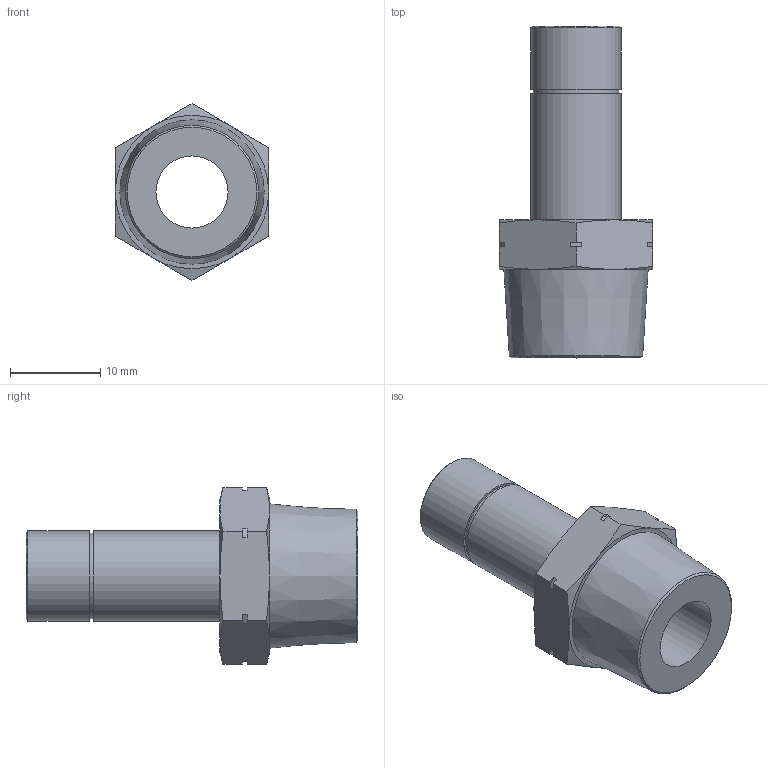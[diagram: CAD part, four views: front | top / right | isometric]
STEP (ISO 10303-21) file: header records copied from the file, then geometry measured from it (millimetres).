
FILE_DESCRIPTION(/* description */ (''),/* implementation_level */ '2;1');
FILE_NAME(/* name */ 'LXH15 0010 N3.stp',/* time_stamp */ '2026-04-28T16:25:59+02:00',/* author */ ('freju'),/* organization */ (''),/* preprocessor_version */ 'ST-DEVELOPER v20.1',/* originating_system */ 'Autodesk Inventor 2026',/* authorisation */ '');
FILE_SCHEMA (('AUTOMOTIVE_DESIGN { 1 0 10303 214 3 1 1 }'));
Length unit declared in the file: millimetre
Products named in the file (1): LXH15 0010 N3
Bounding box: 17 x 36.8 x 19.63 mm (x, y, z)
Volume: 3028.1 mm3; surface area: 2764.7 mm2
Topology: 1 solids, 1 shells, 49 faces, 117 edges, 74 vertices
Faces by surface type: plane 24, cone 15, cylinder 10
Full cylindrical faces by diameter (mm): 8 x1, 9.5 x1, 10 x2
Entity records: 1436 total; most frequent: CARTESIAN_POINT 289, ORIENTED_EDGE 234, DIRECTION 231, EDGE_CURVE 117, AXIS2_PLACEMENT_3D 88, VERTEX_POINT 74, EDGE_LOOP 55, LINE 55
